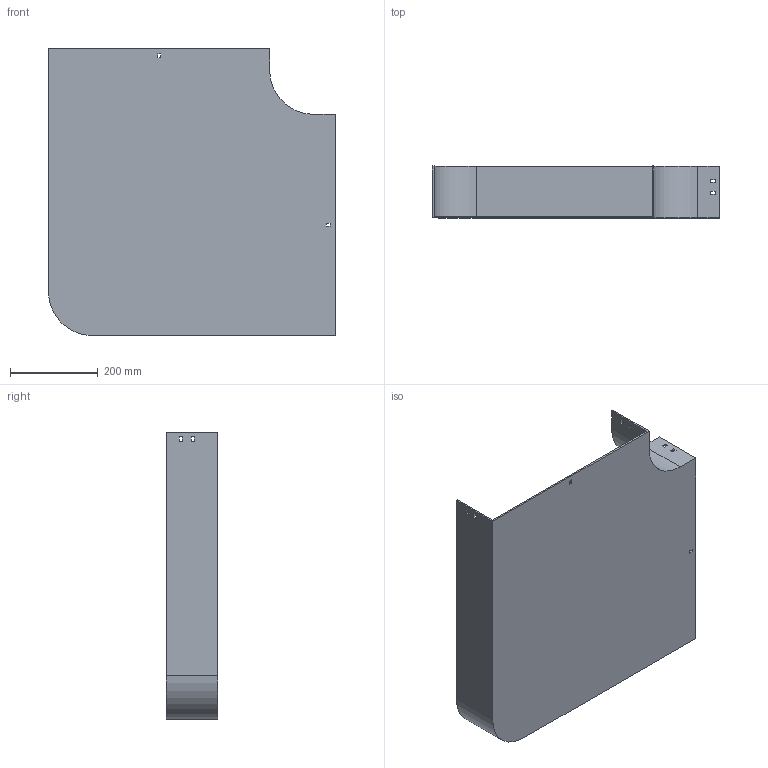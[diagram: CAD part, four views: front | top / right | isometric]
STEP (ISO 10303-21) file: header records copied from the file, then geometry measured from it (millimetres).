
FILE_DESCRIPTION (( 'STEP AP214' ), '1' );
FILE_NAME ('10B1J500.step', '2025-02-21T09:40:12', ( '' ), ( '' ), 'SwSTEP 2.0', 'SolidWorks 2023', '' );
FILE_SCHEMA (( 'AUTOMOTIVE_DESIGN' ));
Length unit declared in the file: millimetre
Products named in the file (1): 10B1J500
Bounding box: 654 x 117.5 x 654 mm (x, y, z)
Volume: 2023228 mm3; surface area: 1167750.9 mm2
Topology: 1 solids, 1 shells, 58 faces, 168 edges, 112 vertices
Faces by surface type: plane 54, cylinder 4
Entity records: 1943 total; most frequent: CARTESIAN_POINT 339, ORIENTED_EDGE 336, DIRECTION 294, EDGE_CURVE 168, LINE 160, VECTOR 160, VERTEX_POINT 112, EDGE_LOOP 78
